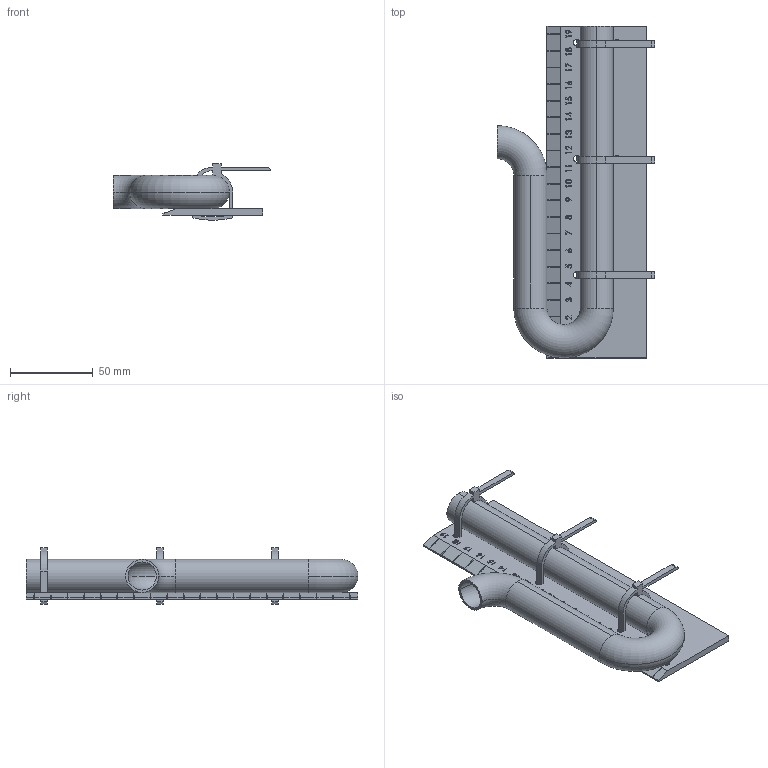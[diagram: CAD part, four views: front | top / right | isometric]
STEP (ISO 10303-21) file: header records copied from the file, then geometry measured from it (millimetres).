
FILE_DESCRIPTION (( 'STEP AP214' ), '1' );
FILE_NAME ('Manometer.STEP', '2020-04-03T14:57:08', ( '' ), ( '' ), 'SwSTEP 2.0', 'SolidWorks 2018', '' );
FILE_SCHEMA (( 'AUTOMOTIVE_DESIGN' ));
Length unit declared in the file: millimetre
Products named in the file (4): Tube; ziptie; Manometer; Ruler
Assembly tree (5 placements, depth 2):
  Manometer
    Ruler
    Tube
    ziptie  x3
Bounding box: 95 x 200 x 34 mm (x, y, z)
Volume: 78338.3 mm3; surface area: 70834.9 mm2
Topology: 5 solids, 5 shells, 544 faces, 1436 edges, 944 vertices
Faces by surface type: plane 348, bspline 144, cylinder 44, torus 8
Entity records: 24820 total; most frequent: CARTESIAN_POINT 11972, ORIENTED_EDGE 2620, DIRECTION 1826, EDGE_CURVE 1310, VECTOR 942, LINE 942, VERTEX_POINT 860, EDGE_LOOP 556
